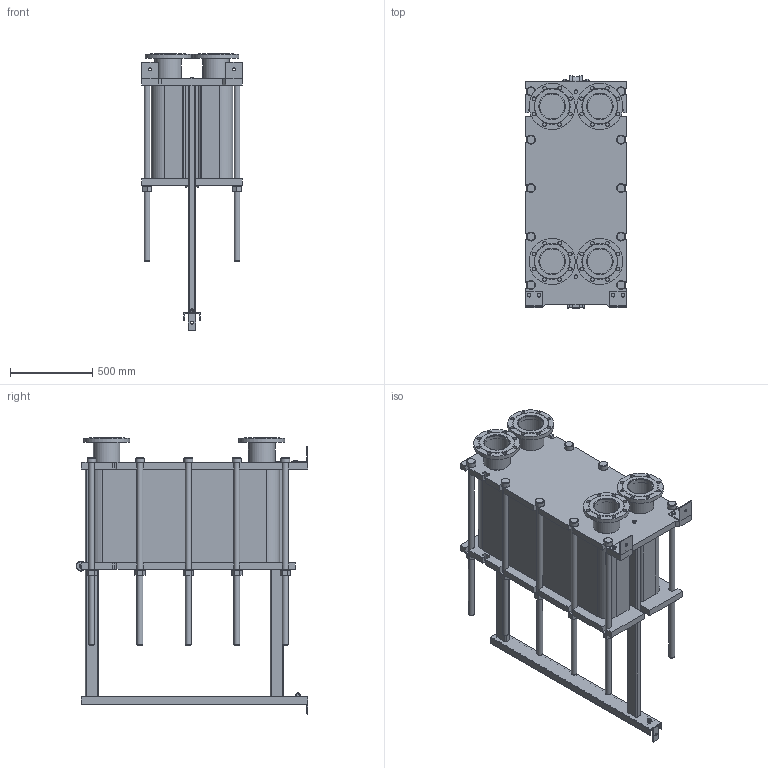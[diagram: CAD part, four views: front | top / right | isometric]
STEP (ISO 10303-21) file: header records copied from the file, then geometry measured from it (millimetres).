
FILE_DESCRIPTION(/* description */ (''),/* implementation_level */ '2;1');
FILE_NAME(/* name */ 'C:\Users\zhuro\Desktop\ENCO\TO\ЭН-041\ЭН-0,5-041-165-1.stp',/* time_stamp */ '2022-06-06T11:04:17+03:00',/* author */ ('zhuro'),/* organization */ (''),/* preprocessor_version */ 'ST-DEVELOPER v18.1',/* originating_system */ 'Autodesk Inventor 2022',/* authorisation */ '');
FILE_SCHEMA (('AUTOMOTIVE_DESIGN { 1 0 10303 214 3 1 1 }'));
Length unit declared in the file: millimetre
Products named in the file (1): ЭН-0,5-041-165-1
Bounding box: 610 x 1406.5 x 1677.5 mm (x, y, z)
Volume: 405208289.2 mm3; surface area: 10457707.8 mm2
Topology: 52 solids, 52 shells, 711 faces, 1696 edges, 1094 vertices
Faces by surface type: plane 487, cylinder 177, cone 41, torus 6
Full cylindrical faces by diameter (mm): 8 x4, 10 x2, 16 x8, 18 x3, 22 x32, 36 x24, 50 x1, 54 x10, 60 x12, 151 x4, 161 x8, 280 x4
Entity records: 22667 total; most frequent: CARTESIAN_POINT 5230, DIRECTION 3644, ORIENTED_EDGE 3392, EDGE_CURVE 1696, AXIS2_PLACEMENT_3D 1272, LINE 1100, VECTOR 1100, VERTEX_POINT 1094
